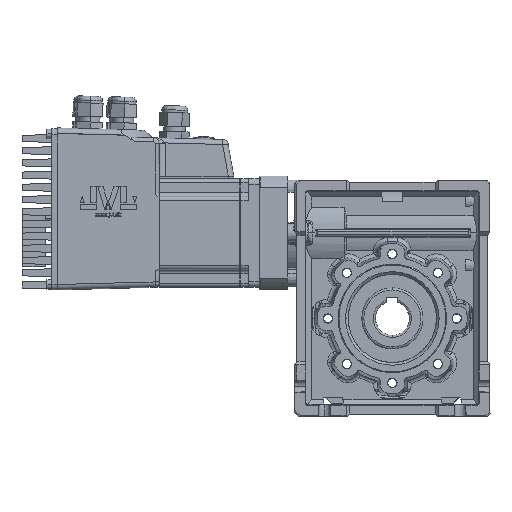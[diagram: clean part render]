
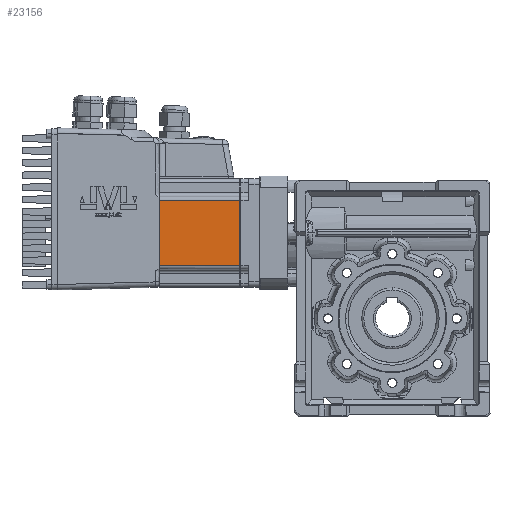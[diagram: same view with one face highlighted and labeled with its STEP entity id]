
A CAD part, front view. The second image highlights one B-rep face of the part: STEP entity #23156.
In plain terms, the highlighted planar face has unit normal (0, -1, 0).
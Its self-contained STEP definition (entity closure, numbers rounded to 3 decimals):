
#5513 = DIRECTION ( 'NONE',  ( -1., 0., 0. ) ) ;
#16132 = CARTESIAN_POINT ( 'NONE',  ( 40.328, -40., -24. ) ) ;
#19153 = CARTESIAN_POINT ( 'NONE',  ( 40.328, -40., -40. ) ) ;
#23156 = ADVANCED_FACE ( 'NONE', ( #146307 ), #58832, .T. ) ;
#24921 = ORIENTED_EDGE ( 'NONE', *, *, #146813, .T. ) ;
#29214 = EDGE_CURVE ( 'NONE', #34121, #95549, #111754, .T. ) ;
#31627 = VECTOR ( 'NONE', #5513, 1000. ) ;
#32133 = DIRECTION ( 'NONE',  ( 0., 0., 1. ) ) ;
#34121 = VERTEX_POINT ( 'NONE', #16132 ) ;
#35000 = VERTEX_POINT ( 'NONE', #149371 ) ;
#35002 = CARTESIAN_POINT ( 'NONE',  ( 100.028, -40., -24. ) ) ;
#36832 = EDGE_CURVE ( 'NONE', #34121, #35000, #123351, .T. ) ;
#37095 = AXIS2_PLACEMENT_3D ( 'NONE', #128120, #129164, #141074 ) ;
#42882 = CARTESIAN_POINT ( 'NONE',  ( 100.028, -40., 24. ) ) ;
#58832 = PLANE ( 'NONE',  #37095 ) ;
#63525 = CARTESIAN_POINT ( 'NONE',  ( 40.328, -40., 24. ) ) ;
#64569 = DIRECTION ( 'NONE',  ( 0., 0., 1. ) ) ;
#70891 = EDGE_LOOP ( 'NONE', ( #24921, #129892, #151857, #106601 ) ) ;
#74905 = DIRECTION ( 'NONE',  ( 1., 0., 0. ) ) ;
#85617 = LINE ( 'NONE', #101776, #111382 ) ;
#87375 = EDGE_CURVE ( 'NONE', #95549, #129299, #85617, .T. ) ;
#94614 = LINE ( 'NONE', #63525, #31627 ) ;
#95549 = VERTEX_POINT ( 'NONE', #35002 ) ;
#101776 = CARTESIAN_POINT ( 'NONE',  ( 100.028, -40., -24. ) ) ;
#104639 = VECTOR ( 'NONE', #32133, 1000. ) ;
#106601 = ORIENTED_EDGE ( 'NONE', *, *, #87375, .T. ) ;
#111073 = CARTESIAN_POINT ( 'NONE',  ( 40.328, -40., -24. ) ) ;
#111382 = VECTOR ( 'NONE', #64569, 1000. ) ;
#111754 = LINE ( 'NONE', #111073, #115618 ) ;
#115618 = VECTOR ( 'NONE', #74905, 1000. ) ;
#123351 = LINE ( 'NONE', #19153, #104639 ) ;
#128120 = CARTESIAN_POINT ( 'NONE',  ( 40.328, -40., -24. ) ) ;
#129164 = DIRECTION ( 'NONE',  ( 0., -1., 0. ) ) ;
#129299 = VERTEX_POINT ( 'NONE', #42882 ) ;
#129892 = ORIENTED_EDGE ( 'NONE', *, *, #36832, .F. ) ;
#141074 = DIRECTION ( 'NONE',  ( 0., 0., -1. ) ) ;
#146307 = FACE_OUTER_BOUND ( 'NONE', #70891, .T. ) ;
#146813 = EDGE_CURVE ( 'NONE', #129299, #35000, #94614, .T. ) ;
#149371 = CARTESIAN_POINT ( 'NONE',  ( 40.328, -40., 24. ) ) ;
#151857 = ORIENTED_EDGE ( 'NONE', *, *, #29214, .T. ) ;
